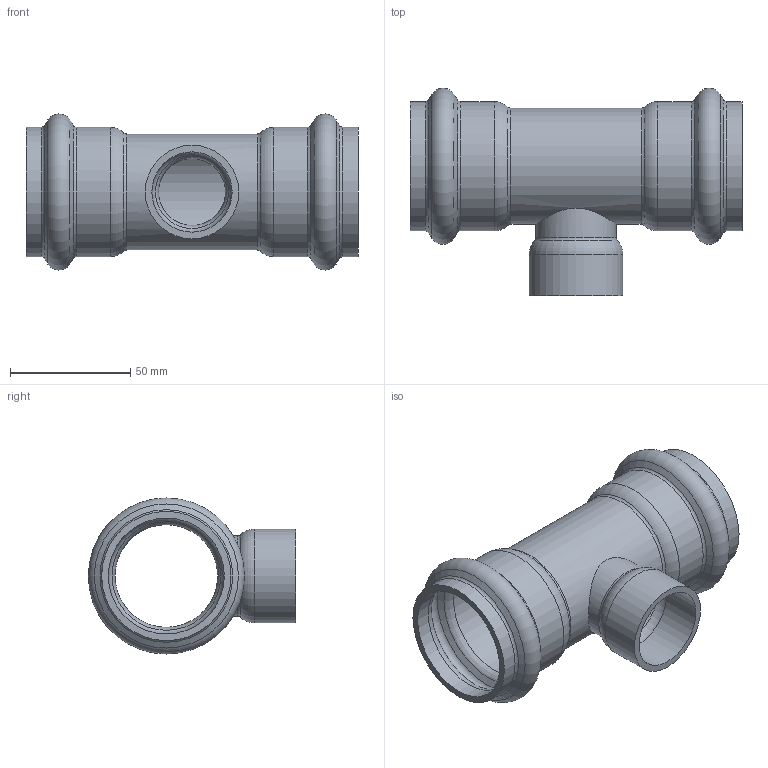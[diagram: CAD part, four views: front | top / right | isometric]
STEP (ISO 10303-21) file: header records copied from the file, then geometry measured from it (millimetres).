
FILE_DESCRIPTION(/* description */ ('VIC TEE RED. BRANCH STYLE P588 (P x P x F)','CAx-IF Rec.Pracs.---Representation and Presentation of Product Manufacturing Information (PMI)---4.0---2014-10-13'),/* implementation_level */ '2;1');
FILE_NAME(/* name */ 'C:\Users\Vjadhav\AppData\Roaming\Autodesk\ApplicationPlugins\Back Up\Victaulic_SS-Vic-Press-TP 304_Tee Threaded_Style P588 (VPxFPT)\Victaulic_SS-Vic-Press-TP 304_Tee Threaded_Style P588 (VPxFPT)_01.5x01.0 (40x25).stp',/* time_stamp */ '2020-08-12T18:49:51+05:00',/* author */ ('cgray'),/* organization */ ('Victaulic'),/* preprocessor_version */ 'ST-DEVELOPER v17.2',/* originating_system */ 'Autodesk Inventor 2019',/* authorisation */ '');
FILE_SCHEMA (('AP242_MANAGED_MODEL_BASED_3D_ENGINEERING_MIM_LF { 1 0 10303 442 1 1 4 }'));
Length unit declared in the file: inch
Products named in the file (1): P588-01.5x01.0
Bounding box: 138.18 x 86.33 x 64.97 mm (x, y, z)
Volume: 73370.7 mm3; surface area: 54183.8 mm2
Topology: 1 solids, 1 shells, 49 faces, 184 edges, 136 vertices
Faces by surface type: torus 24, cylinder 14, cone 8, plane 3
Full cylindrical faces by diameter (mm): 27.864 x1, 33.401 x2, 38.938 x1, 42.723 x1, 48.26 x5, 53.797 x4
Entity records: 2395 total; most frequent: CARTESIAN_POINT 499, DIRECTION 454, ORIENTED_EDGE 368, AXIS2_PLACEMENT_3D 215, EDGE_CURVE 184, CIRCLE 152, VERTEX_POINT 136, EDGE_LOOP 52
